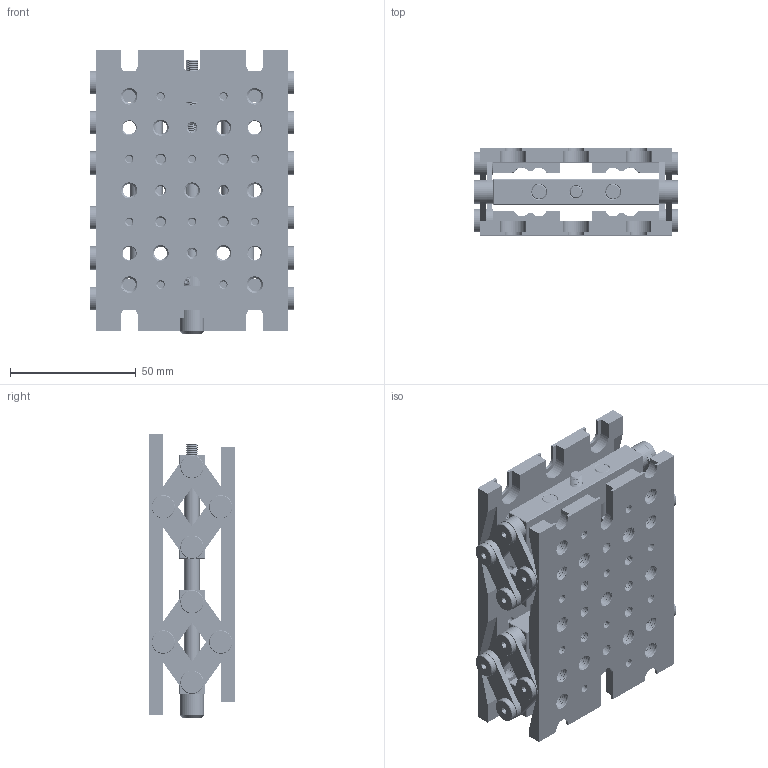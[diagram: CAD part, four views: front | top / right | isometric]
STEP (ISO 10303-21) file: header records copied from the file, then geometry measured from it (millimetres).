
FILE_DESCRIPTION((''),'2;1');
FILE_NAME('TSX-Z25_ASM','2023-12-30T12:16:30',('R&D'),(''),'CREO PARAMETRIC BY PTC INC, 2021063','CREO PARAMETRIC BY PTC INC, 2021063','');
FILE_SCHEMA(('CONFIG_CONTROL_DESIGN'));
Products named in the file (19): TSX-Z25_A2; TSX-Z25_A1; TSX-Z25_A3; SPRCER_6_5X9_4X0_4; SPRCER_6_5X9_4X0_4_2; BALL_1_5; BALL_1_5_2; TSX-Z25_A4; TSX-Z25_A5; TSX-Z25_A6; TSX-Z25_A7; M3X2_HS; M4X3_HS; TSX-Z25_A8; TSX-Z25_A9; AXLE_6X66_7; TSX-Z25_A1_B; TSX-A4; TSX-Z25_ASM
Assembly tree (83 placements, depth 2):
  TSX-Z25_ASM
    TSX-Z25_A2
    TSX-Z25_A1
    TSX-Z25_A3
    SPRCER_6_5X9_4X0_4
    SPRCER_6_5X9_4X0_4_2
    BALL_1_5  x14
    BALL_1_5_2  x14
    TSX-Z25_A4
    TSX-Z25_A5
    TSX-Z25_A6
    TSX-Z25_A7
    M3X2_HS
    M4X3_HS  x8
    TSX-Z25_A8  x16
    TSX-Z25_A9  x16
    AXLE_6X66_7  x2
    TSX-Z25_A1_B
    TSX-A4  x2
Bounding box: 81.31 x 34.54 x 112.83 mm (x, y, z)
Volume: 129993.5 mm3; surface area: 89597.2 mm2
Topology: 87 solids, 87 shells, 4093 faces, 11563 edges, 7222 vertices
Faces by surface type: cylinder 1460, bspline 1292, plane 800, cone 427, sphere 114
Entity records: 255667 total; most frequent: CARTESIAN_POINT 184441, ORIENTED_EDGE 18150, DIRECTION 9374, EDGE_CURVE 9075, VERTEX_POINT 5750, B_SPLINE_CURVE_WITH_KNOTS 4655, VECTOR 3370, LINE 3370
